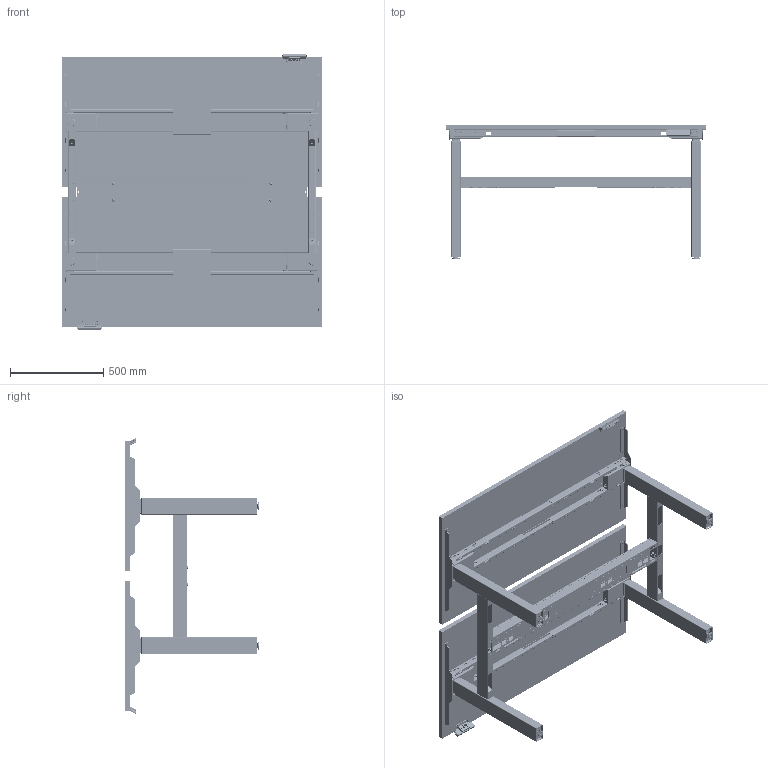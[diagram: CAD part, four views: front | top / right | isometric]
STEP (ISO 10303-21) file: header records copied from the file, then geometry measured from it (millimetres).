
FILE_DESCRIPTION (( 'STEP AP203' ), '1' );
FILE_NAME ('Plataforma ACCESS 40x80.STEP', '2026-09-21T20:01:42', ( '' ), ( '' ), 'SwSTEP 2.0', 'SolidWorks 2026', '' );
FILE_SCHEMA (( 'CONFIG_CONTROL_DESIGN' ));
Length unit declared in the file: millimetre
Products named in the file (25): 041463; Plataforma ACCESS 40x80; 041469; 021576_Ilustrativa; 036615; 042182; 040598; 040600; 029620; Tampo 700x1400; 042193; 041464; 041441M_Mínimo; 040599; 004038; 041443; 040597; 041440M_Mínimo; 000847; 006267; 041462; 040601; 039430; 035581; 031104M3
Assembly tree (74 placements, depth 4):
  Plataforma ACCESS 40x80
    041440M_Mínimo  x2
      041443
      039430
      036615
      031104M3
      021576_Ilustrativa
      000847
      004038
    041441M_Mínimo  x2
      041443
      039430
      036615
      031104M3
      021576_Ilustrativa
      000847
      004038
    041462  x2
      041463
        041464
        041469  x2
      004038
    035581  x4
    040597
      040598
      040599  x2
      040600
      040601
      004038  x4
      006267  x4
    042182  x4
    042193  x2
    029620  x4
    Tampo 700x1400  x2
Bounding box: 1400 x 720 x 1478.59 mm (x, y, z)
Volume: 57184580.9 mm3; surface area: 11101018.5 mm2
Topology: 219 solids, 219 shells, 11218 faces, 29902 edges, 19286 vertices
Faces by surface type: plane 6154, cylinder 4040, bspline 506, cone 270, torus 244, sphere 4
Entity records: 139850 total; most frequent: CARTESIAN_POINT 43542, ORIENTED_EDGE 19592, DIRECTION 18556, EDGE_CURVE 9796, LINE 7004, VECTOR 7004, VERTEX_POINT 6317, AXIS2_PLACEMENT_3D 5776
